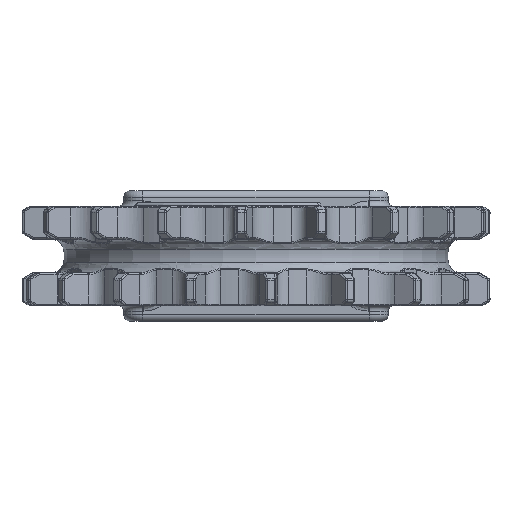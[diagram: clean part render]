
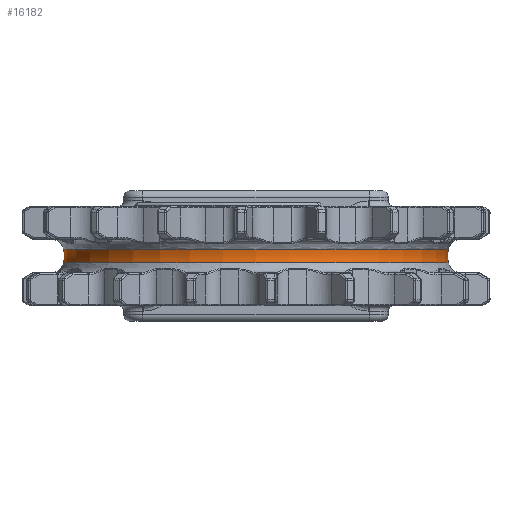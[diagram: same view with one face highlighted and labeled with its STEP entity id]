
A CAD part, left-side view. The second image highlights one B-rep face of the part: STEP entity #16182.
In plain terms, the highlighted toroidal (fillet/blend) face has major radius 43.03 mm and minor radius 6.805 mm.
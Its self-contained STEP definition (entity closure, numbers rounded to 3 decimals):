
#13706=TOROIDAL_SURFACE('',#37416,43.03,6.805);
#14571=FACE_OUTER_BOUND('',#17954,.T.);
#16182=ADVANCED_FACE('',(#14571),#13706,.F.);
#17954=EDGE_LOOP('',(#23648,#23649,#23650,#23651,#23652,#23653));
#23648=ORIENTED_EDGE('',*,*,#31681,.F.);
#23649=ORIENTED_EDGE('',*,*,#32239,.F.);
#23650=ORIENTED_EDGE('',*,*,#32240,.F.);
#23651=ORIENTED_EDGE('',*,*,#32241,.T.);
#23652=ORIENTED_EDGE('',*,*,#32242,.F.);
#23653=ORIENTED_EDGE('',*,*,#32243,.F.);
#28765=VERTEX_POINT('',#48451);
#28766=VERTEX_POINT('',#48453);
#29354=VERTEX_POINT('',#56885);
#29355=VERTEX_POINT('',#56887);
#29356=VERTEX_POINT('',#56889);
#29357=VERTEX_POINT('',#56891);
#31681=EDGE_CURVE('',#28766,#28765,#35041,.T.);
#32239=EDGE_CURVE('',#29354,#28766,#35237,.T.);
#32240=EDGE_CURVE('',#29355,#29354,#35238,.T.);
#32241=EDGE_CURVE('',#29355,#29356,#35239,.T.);
#32242=EDGE_CURVE('',#29357,#29356,#35240,.T.);
#32243=EDGE_CURVE('',#28765,#29357,#35241,.T.);
#35041=CIRCLE('',#37012,36.35);
#35237=CIRCLE('',#37411,6.805);
#35238=CIRCLE('',#37412,6.805);
#35239=CIRCLE('',#37413,36.35);
#35240=CIRCLE('',#37414,6.805);
#35241=CIRCLE('',#37415,6.805);
#37012=AXIS2_PLACEMENT_3D('',#52065,#40935,#40936);
#37411=AXIS2_PLACEMENT_3D('',#56884,#41861,#41862);
#37412=AXIS2_PLACEMENT_3D('',#56886,#41863,#41864);
#37413=AXIS2_PLACEMENT_3D('',#56888,#41865,#41866);
#37414=AXIS2_PLACEMENT_3D('',#56890,#41867,#41868);
#37415=AXIS2_PLACEMENT_3D('',#56892,#41869,#41870);
#37416=AXIS2_PLACEMENT_3D('',#56893,#41871,#41872);
#40935=DIRECTION('',(0.,0.,-1.));
#40936=DIRECTION('',(0.,-1.,0.));
#41861=DIRECTION('',(-1.,0.,0.));
#41862=DIRECTION('',(0.,1.,0.));
#41863=DIRECTION('',(-1.,0.,0.));
#41864=DIRECTION('',(0.,0.982,0.191));
#41865=DIRECTION('',(0.,0.,-1.));
#41866=DIRECTION('',(0.,-1.,0.));
#41867=DIRECTION('',(-1.,0.,0.));
#41868=DIRECTION('',(0.,-1.,0.));
#41869=DIRECTION('',(-1.,0.,0.));
#41870=DIRECTION('',(0.,-0.982,-0.191));
#41871=DIRECTION('',(0.,0.,-1.));
#41872=DIRECTION('',(-1.,0.,0.));
#48451=CARTESIAN_POINT('',(0.,166.35,-1.298));
#48453=CARTESIAN_POINT('',(0.,93.65,-1.298));
#52065=CARTESIAN_POINT('',(0.,130.,-1.298));
#56884=CARTESIAN_POINT('',(0.,86.97,0.));
#56885=CARTESIAN_POINT('',(0.,93.775,0.));
#56886=CARTESIAN_POINT('',(0.,86.97,0.));
#56887=CARTESIAN_POINT('',(0.,93.65,1.298));
#56888=CARTESIAN_POINT('',(0.,130.,1.298));
#56889=CARTESIAN_POINT('',(0.,166.35,1.298));
#56890=CARTESIAN_POINT('',(0.,173.03,0.));
#56891=CARTESIAN_POINT('',(0.,166.225,0.));
#56892=CARTESIAN_POINT('',(0.,173.03,0.));
#56893=CARTESIAN_POINT('',(0.,130.,0.));
